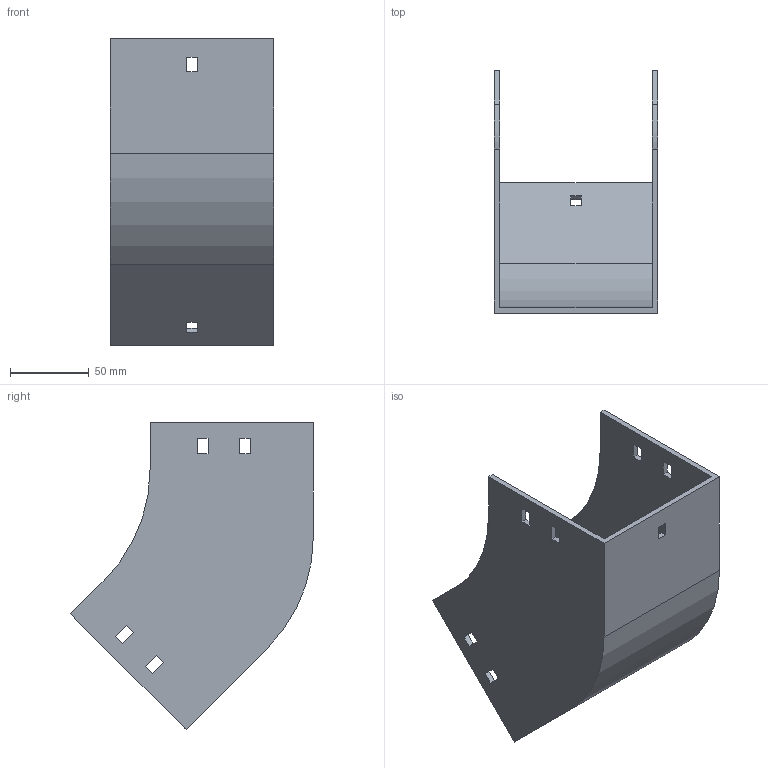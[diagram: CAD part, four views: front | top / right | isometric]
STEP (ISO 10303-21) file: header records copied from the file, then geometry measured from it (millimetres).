
FILE_DESCRIPTION (( 'STEP AP214' ), '1' );
FILE_NAME ('31F1D100.step', '2025-02-21T12:58:53', ( '' ), ( '' ), 'SwSTEP 2.0', 'SolidWorks 2023', '' );
FILE_SCHEMA (( 'AUTOMOTIVE_DESIGN' ));
Length unit declared in the file: millimetre
Products named in the file (1): 31F1D100
Bounding box: 104 x 154.5 x 195.46 mm (x, y, z)
Volume: 208798.7 mm3; surface area: 123596.9 mm2
Topology: 1 solids, 1 shells, 58 faces, 168 edges, 112 vertices
Faces by surface type: plane 54, cylinder 4
Entity records: 1943 total; most frequent: CARTESIAN_POINT 339, ORIENTED_EDGE 336, DIRECTION 294, EDGE_CURVE 168, LINE 160, VECTOR 160, VERTEX_POINT 112, EDGE_LOOP 78
